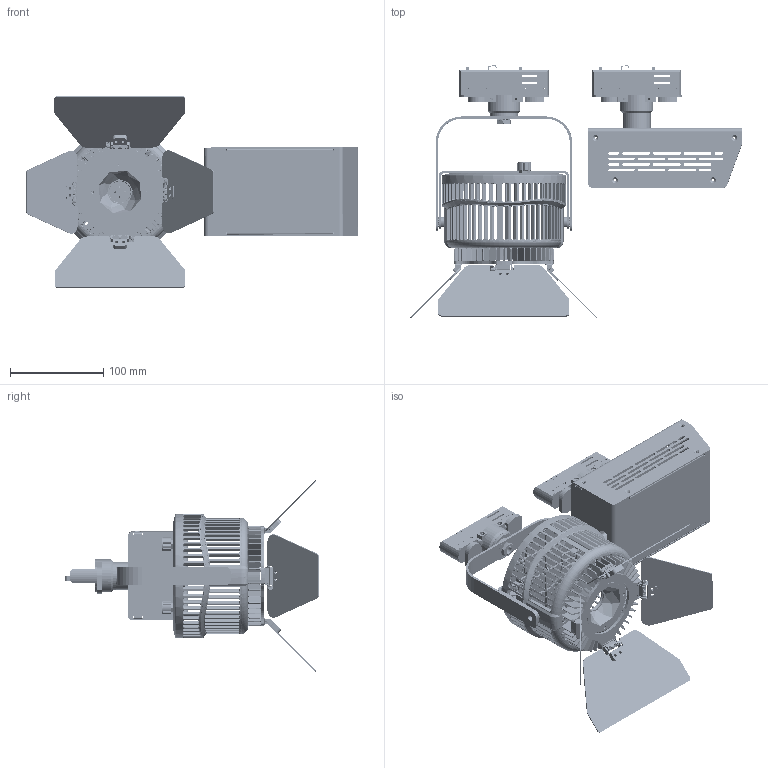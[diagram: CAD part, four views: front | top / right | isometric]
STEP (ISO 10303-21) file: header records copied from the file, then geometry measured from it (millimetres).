
FILE_DESCRIPTION (( 'STEP AP214' ), '1' );
FILE_NAME ('W500BD-TEX-PS.STEP', '2024-02-01T19:01:02', ( '' ), ( '' ), 'SwSTEP 2.0', 'SolidWorks 2022', '' );
FILE_SCHEMA (( 'AUTOMOTIVE_DESIGN' ));
Length unit declared in the file: millimetre
Products named in the file (42): 5020757-001_A1_VR Nut, Kessil A360 Aquarium Light___; 5022424-XXX_A2_250W Power Box Cover (TG&TEX-PS&CLP&TJ TYPE), 165x92x62.5(H)mm___; 5022446-XXX_A2_W Series, 15F YOKE PART-A, 140x62x18mm___; 5021287_A2_Toothed Lock Washer M6, OD11 ID6.4 T0.55, SUS___; 5022341-XXX_A1_Minor Leaf of 3 inch Barndoor, L96, W77, T1.1___; 5022348-104_ _Toothed Washer Series, M3___; 5010177-XXX_A2_Assembly BOM, Kessil W500_55D-BD-[TEX]; 62432-11100100140040_ _Hex Nuts Customized, M10 P1.0 S14 T4 W-Zinc___; 62280-1363006_ _SCREW, M3x6mmL, PAN HEAD TORX WITH THREAD LOCK___; 5021948_A1_Narrow Reflector, OD=54, T=15.6MM___; 5022185_A3_Frame, T=1.5mm AL5052 Black, 24x20x65.15mm___; 5022452-001_A3_Reflector Sink Holder, D108x14.35(H)mm (-002 is White)_-001(Black); 5020921-XXX_A5_Spacer, Pitch 7.4, Light Shielding, Barn Door___; 5022189_A1_Plate, OD=48, ID=23, T=2.0mm___; 5120530-XXX_A1_Assembly BOM, W500 Reflector Type_Reflector - 55D-BD; 5022014-XYZ_A2_EUTRAC Multi Adapter_Finissh_2(No Locked); 5020919-XXX_A5_Spacer, Pitch 6.0, Light Shielding, Barn Door___; 5020734-XXX_A3_Spacer, Hinge, Barn Door_-001_Black; 5120561_A1_Frame, T=1.5mm AL5052 Black, 17.5x20x65.15mm___; 5020757-002_A2_VR Washer, Kessil A360 Aquarium Light___; 62280-1313006_ _SCREW, M3x6mmL, PAN HEAD TORX WITH THREAD LOCK___; 5020655-011_A4_Hinge, Assembly, Barndoor Video Light, Pitch6.0, Black_01; 5120531-XXX_A4_Assembly BOM, Light Mounting Type for Yoke_TEX; 5022358-1051452003_ _Wave Spring Washer, ID10.5 OD14.5 H2.0 T0.3, Black___; 5022340-XXX_A1_Major Leaf of 3 inch Barndoor, L140, W77, T1.1___; 5022445-XXX_A1_DC Plug for W Series, D=12mm_-002(Black); 5022667-XXX_A1_Holder, Barn Door Frame For W-Series, OD=107, T=3mm___; 5022447-XXX_A2_W Series, 15F YOKE PART-B, 146.2x122.5x20mm___; 5022398-XXX_A1_Plug for W Series, 19x10x9.4mm_-002(Black); 5120539-XXX_A1_Housing, OD=133, ID=121, T=78.1mm, For Reflector, Without Logo___; 5021787_A3_Retaining Collar, M10xL10___; W500BD-TEX-PS; 5020655-012_A4_Hinge, Assembly, Barndoor Video Light, Pitch7.4, Black_01; 5120529-XXX_A1_Assembly BOM, W500 Light Engine_Finish; 5022427-XXX_A4_250W Power Box FRAME (TG&TEX&CLP TYPE), 165x95x64mm___; 5120540-XXX_A1_Rear Panel, OD=133, T=13.65mm, W-Series_5120531-001 W500; 5021926-XXX_A2_KNOB, 18T, OD=14.9, ID=6, L=10MM_C1; 5120519-XXX_A3_Assembly BOM, Kessil W500 Power Box_TON(US)-PS; 5020893-3211020005_ _Flat Washer Customized, Nylon Black, ID11mm OD20mm T0.5mm___; 5021924_A2_BOLT SCREW, M3.0, L=19.2MM___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
Assembly tree (61 placements, depth 4):
  W500BD-TEX-PS
    5120519-XXX_A3_Assembly BOM, Kessil W500 Power Box_TON(US)-PS
      5022427-XXX_A4_250W Power Box FRAME (TG&TEX&CLP TYPE), 165x95x64mm___
      5022014-XYZ_A2_EUTRAC Multi Adapter_Finissh_2(No Locked)
      5022484-XXX_A1_Retaining Collar, M10xL10 P1.0, D30.0x31.1mm___
      5022424-XXX_A2_250W Power Box Cover (TG&TEX-PS&CLP&TJ TYPE), 165x92x62.5(H)mm___
    5010177-XXX_A2_Assembly BOM, Kessil W500_55D-BD-[TEX]
      5120529-XXX_A1_Assembly BOM, W500 Light Engine_Finish
        5120540-XXX_A1_Rear Panel, OD=133, T=13.65mm, W-Series_5120531-001 W500
        5022398-XXX_A1_Plug for W Series, 19x10x9.4mm_-002(Black)
        5022445-XXX_A1_DC Plug for W Series, D=12mm_-002(Black)
        5022185_A3_Frame, T=1.5mm AL5052 Black, 24x20x65.15mm___
        5120561_A1_Frame, T=1.5mm AL5052 Black, 17.5x20x65.15mm___
        5022348-104_ _Toothed Washer Series, M3___  x2
        62280-1313006_ _SCREW, M3x6mmL, PAN HEAD TORX WITH THREAD LOCK___  x4
        5021924_A2_BOLT SCREW, M3.0, L=19.2MM___  x2
        5020757-002_A2_VR Washer, Kessil A360 Aquarium Light___  x2
        5020757-001_A1_VR Nut, Kessil A360 Aquarium Light___  x2
        5021926-XXX_A2_KNOB, 18T, OD=14.9, ID=6, L=10MM_C1  x2
        62280-1363006_ _SCREW, M3x6mmL, PAN HEAD TORX WITH THREAD LOCK___  x2
      5120530-XXX_A1_Assembly BOM, W500 Reflector Type_Reflector - 55D-BD
        5120539-XXX_A1_Housing, OD=133, ID=121, T=78.1mm, For Reflector, Without Logo___
        5022189_A1_Plate, OD=48, ID=23, T=2.0mm___
        62280-1343006_ _SCREW, PAN HEAD TROX W-THD LOCK, SUS-410, BLACK, M3xL6mm___  x2
        5022452-001_A3_Reflector Sink Holder, D108x14.35(H)mm (-002 is White)_-001(Black)
        5021948_A1_Narrow Reflector, OD=54, T=15.6MM___
        5020655-011_A4_Hinge, Assembly, Barndoor Video Light, Pitch6.0, Black_01  x2
        5020919-XXX_A5_Spacer, Pitch 6.0, Light Shielding, Barn Door___  x2
        5022341-XXX_A1_Minor Leaf of 3 inch Barndoor, L96, W77, T1.1___  x2
        5020655-012_A4_Hinge, Assembly, Barndoor Video Light, Pitch7.4, Black_01  x2
        5020921-XXX_A5_Spacer, Pitch 7.4, Light Shielding, Barn Door___  x2
        5020734-XXX_A3_Spacer, Hinge, Barn Door_-001_Black  x2
        5022340-XXX_A1_Major Leaf of 3 inch Barndoor, L140, W77, T1.1___  x2
        5022667-XXX_A1_Holder, Barn Door Frame For W-Series, OD=107, T=3mm___
      5120531-XXX_A4_Assembly BOM, Light Mounting Type for Yoke_TEX
        5022447-XXX_A2_W Series, 15F YOKE PART-B, 146.2x122.5x20mm___
        5022446-XXX_A2_W Series, 15F YOKE PART-A, 140x62x18mm___
        5021287_A2_Toothed Lock Washer M6, OD11 ID6.4 T0.55, SUS___  x2
        5022358-1051452003_ _Wave Spring Washer, ID10.5 OD14.5 H2.0 T0.3, Black___
        5020893-3211020005_ _Flat Washer Customized, Nylon Black, ID11mm OD20mm T0.5mm___  x2
        5022014-XYZ_A2_EUTRAC Multi Adapter_Finissh_2(No Locked)
        5021787_A3_Retaining Collar, M10xL10___
        62432-11100100140040_ _Hex Nuts Customized, M10 P1.0 S14 T4 W-Zinc___
Bounding box: 356.18 x 272.01 x 205.95 mm (x, y, z)
Volume: 445713.2 mm3; surface area: 476910.2 mm2
Topology: 89 solids, 89 shells, 8653 faces, 23710 edges, 15168 vertices
Faces by surface type: plane 3411, cylinder 3040, bspline 1185, cone 598, torus 415, sphere 4
Entity records: 308980 total; most frequent: CARTESIAN_POINT 132930, ORIENTED_EDGE 38278, DIRECTION 31605, EDGE_CURVE 19139, VERTEX_POINT 12219, AXIS2_PLACEMENT_3D 11513, LINE 8579, VECTOR 8579
